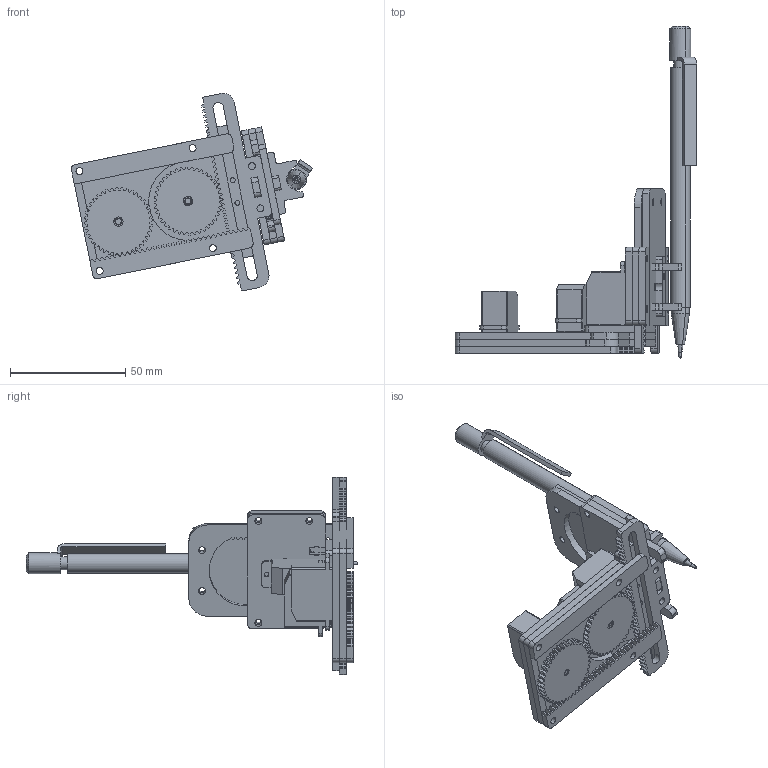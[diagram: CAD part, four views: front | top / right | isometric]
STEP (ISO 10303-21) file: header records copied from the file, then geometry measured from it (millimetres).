
FILE_DESCRIPTION (( 'STEP AP203' ), '1' );
FILE_NAME ('Telaio_v3.STEP', '2013-12-18T22:48:49', ( 'Tiago' ), ( '' ), 'SwSTEP 2.0', 'SolidWorks 2012', '' );
FILE_SCHEMA (( 'CONFIG_CONTROL_DESIGN' ));
Length unit declared in the file: millimetre
Products named in the file (4): Telaio_v3; Pencil; emax_es08d; Telaio_v3_root
Assembly tree (5 placements, depth 2):
  Telaio_v3
    Telaio_v3_root
    emax_es08d  x3
    Pencil
Bounding box: 104.68 x 144 x 85.56 mm (x, y, z)
Volume: 74592.8 mm3; surface area: 57873.1 mm2
Topology: 29 solids, 29 shells, 1984 faces, 5724 edges, 3811 vertices
Faces by surface type: plane 1291, bspline 383, cylinder 302, cone 8
Entity records: 63721 total; most frequent: CARTESIAN_POINT 15934, ORIENTED_EDGE 10848, DIRECTION 8123, EDGE_CURVE 5424, VECTOR 4151, LINE 4151, VERTEX_POINT 3613, EDGE_LOOP 1989
